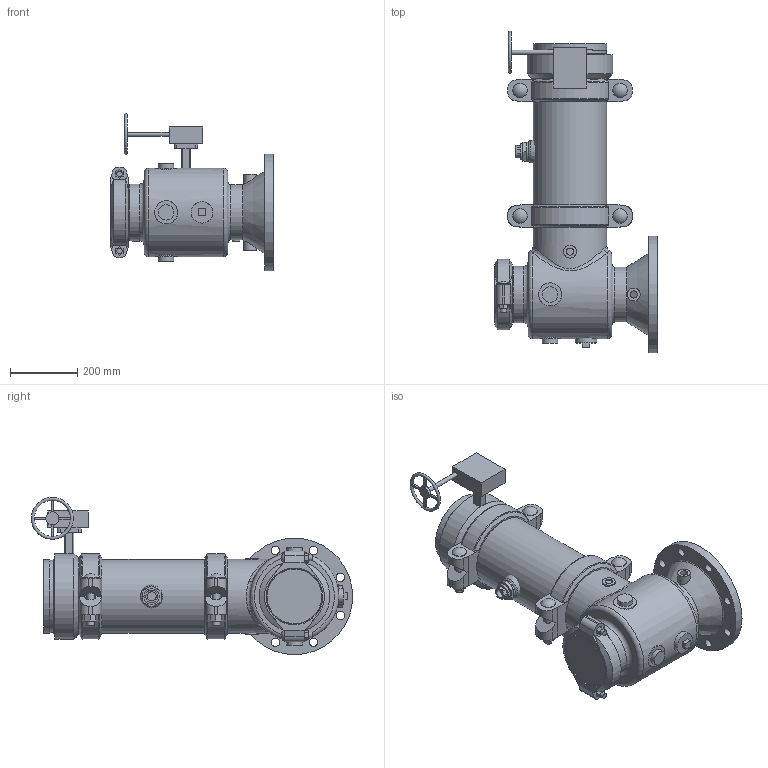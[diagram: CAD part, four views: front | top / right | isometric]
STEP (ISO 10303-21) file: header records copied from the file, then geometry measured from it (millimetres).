
FILE_DESCRIPTION(/* description */ ('VIC SVI PUMP DROP HORZ S/391 (OGSxFLG)','CAx-IF Rec.Pracs.---Representation and Presentation of Product Manufacturing Information (PMI)---4.0---2014-10-13'),/* implementation_level */ '2;1');
FILE_NAME(/* name */ 'C:\Users\Vjadhav\AppData\Roaming\Autodesk\ApplicationPlugins\Victaulic.Temp\A952\Victaulic_IPS_SVI_CL 150_Series 391 (OGSxFLG)_08.0x08.0 (200x200).stp',/* time_stamp */ '2021-04-09T17:54:45+05:00',/* author */ ('kkamble'),/* organization */ ('Victaulic'),/* preprocessor_version */ 'ST-DEVELOPER v17.2',/* originating_system */ 'Autodesk Inventor 2019',/* authorisation */ '');
FILE_SCHEMA (('AP242_MANAGED_MODEL_BASED_3D_ENGINEERING_MIM_LF { 1 0 10303 442 1 1 4 }'));
Length unit declared in the file: inch
Products named in the file (9): 391-08.0x08.0; 731D-08.0x08.0; 731D-08.0x08.0_1; 731D-08.0; 07-06.0; PIPE-08.0; 177N-08.0; 761-08.0; 923-04.0x0.75
Assembly tree (9 placements, depth 3):
  391-08.0x08.0
    731D-08.0x08.0
      731D-08.0x08.0_1
      731D-08.0
      07-06.0
    177N-08.0  x2
    PIPE-08.0
    761-08.0
    923-04.0x0.75
Bounding box: 482.6 x 953 x 466.33 mm (x, y, z)
Volume: 18268952.1 mm3; surface area: 2355093.9 mm2
Topology: 8 solids, 11 shells, 511 faces, 1350 edges, 911 vertices
Faces by surface type: plane 294, cylinder 170, cone 19, torus 18, sphere 6, bspline 4
Full cylindrical faces by diameter (mm): 8.636 x4, 12.446 x1, 12.7 x1, 15.875 x4, 21.336 x4, 22.225 x4, 22.86 x1, 24.994 x8, 26.67 x1, 27.381 x2, 38.1 x4, 39.125 x1, 42.85 x4, 45.72 x3, 45.974 x2, 55.118 x1, 55.626 x1, 63.5 x1, 132.588 x1, 136.906 x1, 146.558 x1, 155.575 x1, 162.814 x1, 163.703 x1, 163.957 x1, 168.275 x5, 193.802 x1, 202.717 x2, 203.2 x1, 206.375 x2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
Entity records: 15540 total; most frequent: CARTESIAN_POINT 4000, DIRECTION 2336, ORIENTED_EDGE 2202, EDGE_CURVE 1101, AXIS2_PLACEMENT_3D 899, VERTEX_POINT 747, LINE 538, VECTOR 538
